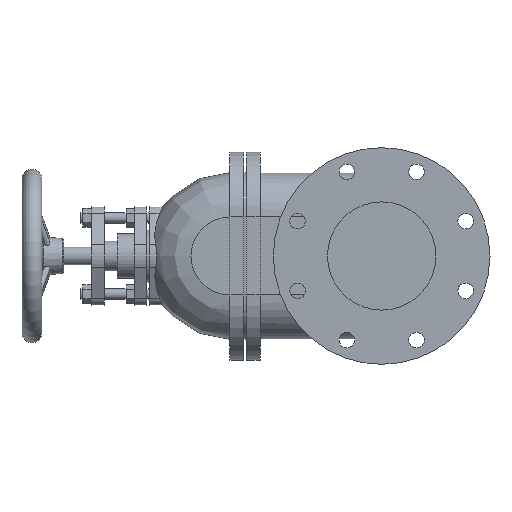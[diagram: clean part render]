
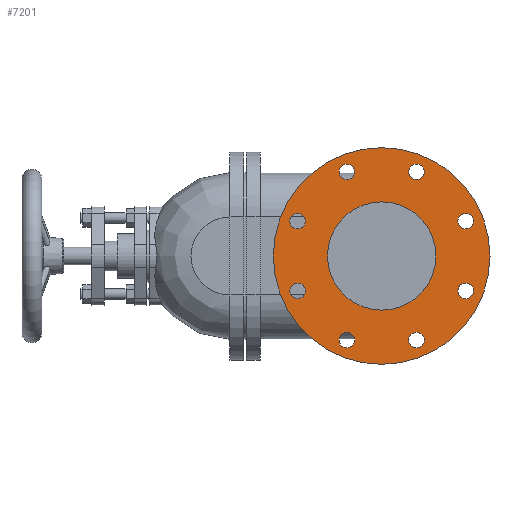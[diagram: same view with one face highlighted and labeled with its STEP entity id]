
A CAD part, left-side view. The second image highlights one B-rep face of the part: STEP entity #7201.
In plain terms, the highlighted planar face has unit normal (-1, 0, 0).
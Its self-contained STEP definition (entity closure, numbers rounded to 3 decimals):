
#93=FACE_BOUND('',#1230,.T.);
#94=FACE_BOUND('',#1231,.T.);
#95=FACE_BOUND('',#1232,.T.);
#96=FACE_BOUND('',#1233,.T.);
#97=FACE_BOUND('',#1234,.T.);
#98=FACE_BOUND('',#1235,.T.);
#99=FACE_BOUND('',#1236,.T.);
#100=FACE_BOUND('',#1237,.T.);
#101=FACE_BOUND('',#1238,.T.);
#259=CIRCLE('',#7261,9.);
#261=CIRCLE('',#7264,9.);
#263=CIRCLE('',#7267,9.);
#265=CIRCLE('',#7270,9.);
#389=CIRCLE('',#7653,62.5);
#392=CIRCLE('',#7658,9.);
#394=CIRCLE('',#7661,9.);
#396=CIRCLE('',#7664,9.);
#398=CIRCLE('',#7667,9.);
#400=CIRCLE('',#7670,125.);
#788=FACE_OUTER_BOUND('',#1229,.T.);
#1229=EDGE_LOOP('',(#6212));
#1230=EDGE_LOOP('',(#6213));
#1231=EDGE_LOOP('',(#6214));
#1232=EDGE_LOOP('',(#6215));
#1233=EDGE_LOOP('',(#6216));
#1234=EDGE_LOOP('',(#6217));
#1235=EDGE_LOOP('',(#6218));
#1236=EDGE_LOOP('',(#6219));
#1237=EDGE_LOOP('',(#6220));
#1238=EDGE_LOOP('',(#6221));
#2720=VERTEX_POINT('',#9768);
#2722=VERTEX_POINT('',#9774);
#2724=VERTEX_POINT('',#9780);
#2726=VERTEX_POINT('',#9786);
#3307=VERTEX_POINT('',#12937);
#3310=VERTEX_POINT('',#12946);
#3312=VERTEX_POINT('',#12952);
#3314=VERTEX_POINT('',#12958);
#3316=VERTEX_POINT('',#12964);
#3318=VERTEX_POINT('',#12970);
#3389=EDGE_CURVE('',#2720,#2720,#259,.T.);
#3392=EDGE_CURVE('',#2722,#2722,#261,.T.);
#3395=EDGE_CURVE('',#2724,#2724,#263,.T.);
#3398=EDGE_CURVE('',#2726,#2726,#265,.T.);
#4270=EDGE_CURVE('',#3307,#3307,#389,.T.);
#4275=EDGE_CURVE('',#3310,#3310,#392,.T.);
#4278=EDGE_CURVE('',#3312,#3312,#394,.T.);
#4281=EDGE_CURVE('',#3314,#3314,#396,.T.);
#4284=EDGE_CURVE('',#3316,#3316,#398,.T.);
#4287=EDGE_CURVE('',#3318,#3318,#400,.T.);
#6212=ORIENTED_EDGE('',*,*,#4287,.F.);
#6213=ORIENTED_EDGE('',*,*,#4284,.F.);
#6214=ORIENTED_EDGE('',*,*,#4281,.F.);
#6215=ORIENTED_EDGE('',*,*,#4278,.F.);
#6216=ORIENTED_EDGE('',*,*,#4275,.F.);
#6217=ORIENTED_EDGE('',*,*,#3389,.F.);
#6218=ORIENTED_EDGE('',*,*,#3392,.F.);
#6219=ORIENTED_EDGE('',*,*,#3395,.F.);
#6220=ORIENTED_EDGE('',*,*,#3398,.F.);
#6221=ORIENTED_EDGE('',*,*,#4270,.T.);
#6468=PLANE('',#7676);
#7201=ADVANCED_FACE('',(#788,#93,#94,#95,#96,#97,#98,#99,#100,#101),#6468,
 .T.);
#7261=AXIS2_PLACEMENT_3D('',#9770,#7770,#7771);
#7264=AXIS2_PLACEMENT_3D('',#9776,#7777,#7778);
#7267=AXIS2_PLACEMENT_3D('',#9782,#7784,#7785);
#7270=AXIS2_PLACEMENT_3D('',#9788,#7791,#7792);
#7653=AXIS2_PLACEMENT_3D('',#12938,#9149,#9150);
#7658=AXIS2_PLACEMENT_3D('',#12948,#9161,#9162);
#7661=AXIS2_PLACEMENT_3D('',#12954,#9168,#9169);
#7664=AXIS2_PLACEMENT_3D('',#12960,#9175,#9176);
#7667=AXIS2_PLACEMENT_3D('',#12966,#9182,#9183);
#7670=AXIS2_PLACEMENT_3D('',#12972,#9189,#9190);
#7676=AXIS2_PLACEMENT_3D('',#12982,#9203,#9204);
#7770=DIRECTION('center_axis',(-1.,0.,0.));
#7771=DIRECTION('ref_axis',(0.,-0.661,0.75));
#7777=DIRECTION('center_axis',(-1.,0.,0.));
#7778=DIRECTION('ref_axis',(0.,-0.998,0.063));
#7784=DIRECTION('center_axis',(-1.,0.,0.));
#7785=DIRECTION('ref_axis',(0.,-0.75,-0.661));
#7791=DIRECTION('center_axis',(-1.,0.,0.));
#7792=DIRECTION('ref_axis',(0.,0.75,-0.661));
#9149=DIRECTION('center_axis',(1.,0.,0.));
#9150=DIRECTION('ref_axis',(0.,0.,1.));
#9161=DIRECTION('center_axis',(-1.,0.,0.));
#9162=DIRECTION('ref_axis',(0.,0.063,0.998));
#9168=DIRECTION('center_axis',(-1.,0.,0.));
#9169=DIRECTION('ref_axis',(0.,0.75,0.661));
#9175=DIRECTION('center_axis',(-1.,0.,0.));
#9176=DIRECTION('ref_axis',(0.,0.998,-0.063));
#9182=DIRECTION('center_axis',(-1.,0.,0.));
#9183=DIRECTION('ref_axis',(0.,0.661,-0.75));
#9189=DIRECTION('center_axis',(1.,0.,0.));
#9190=DIRECTION('ref_axis',(0.,0.,1.));
#9203=DIRECTION('center_axis',(-1.,0.,0.));
#9204=DIRECTION('ref_axis',(0.,0.,1.));
#9768=CARTESIAN_POINT('',(-98.557,-210.953,33.818));
#9770=CARTESIAN_POINT('Origin',(-98.557,-217.317,40.182));
#9774=CARTESIAN_POINT('',(-98.557,-208.317,-40.182));
#9776=CARTESIAN_POINT('Origin',(-98.557,-217.317,-40.182));
#9780=CARTESIAN_POINT('',(-98.557,-154.128,-90.643));
#9782=CARTESIAN_POINT('Origin',(-98.557,-160.492,-97.007));
#9786=CARTESIAN_POINT('',(-98.557,-80.128,-88.007));
#9788=CARTESIAN_POINT('Origin',(-98.557,-80.128,-97.007));
#12937=CARTESIAN_POINT('',(-98.557,-120.31,-62.5));
#12938=CARTESIAN_POINT('Origin',(-98.557,-120.31,0.));
#12946=CARTESIAN_POINT('',(-98.557,-160.492,88.007));
#12948=CARTESIAN_POINT('Origin',(-98.557,-160.492,97.007));
#12952=CARTESIAN_POINT('',(-98.557,-86.492,90.643));
#12954=CARTESIAN_POINT('Origin',(-98.557,-80.128,97.007));
#12958=CARTESIAN_POINT('',(-98.557,-32.303,40.182));
#12960=CARTESIAN_POINT('Origin',(-98.557,-23.303,40.182));
#12964=CARTESIAN_POINT('',(-98.557,-29.667,-33.818));
#12966=CARTESIAN_POINT('Origin',(-98.557,-23.303,-40.182));
#12970=CARTESIAN_POINT('',(-98.557,-245.31,0.));
#12972=CARTESIAN_POINT('Origin',(-98.557,-120.31,0.));
#12982=CARTESIAN_POINT('Origin',(-98.557,-26.31,0.));
